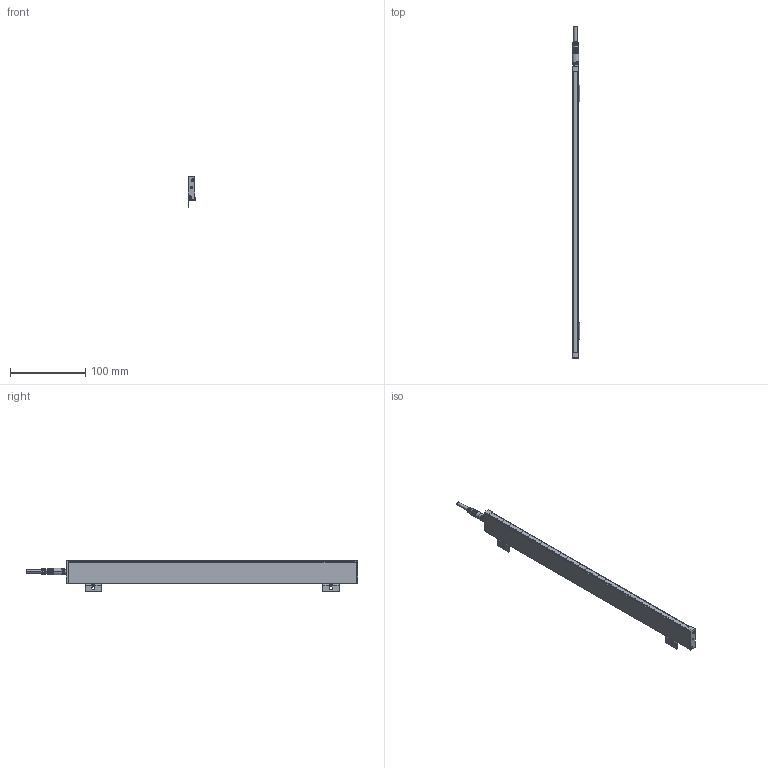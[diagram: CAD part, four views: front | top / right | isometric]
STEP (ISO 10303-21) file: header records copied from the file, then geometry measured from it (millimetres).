
FILE_DESCRIPTION (( 'STEP AP214' ), '1' );
FILE_NAME ('ILG-N-K2-0388mm.STEP', '2017-07-10T13:43:46', ( '' ), ( '' ), 'SwSTEP 2.0', 'SolidWorks 2016', '' );
FILE_SCHEMA (( 'AUTOMOTIVE_DESIGN' ));
Length unit declared in the file: millimetre
Products named in the file (1): ILG-N-K2-0388mm
Bounding box: 10.23 x 441.5 x 42.41 mm (x, y, z)
Surface area: 70948.2 mm2 (no closed solid volume)
Topology: 0 solids, 15 shells, 740 faces, 1919 edges, 1209 vertices
Faces by surface type: plane 313, cylinder 289, cone 90, bspline 32, torus 16
Entity records: 32845 total; most frequent: CARTESIAN_POINT 6754, ORIENTED_EDGE 3791, DIRECTION 3659, EDGE_CURVE 1903, AXIS2_PLACEMENT_3D 1362, VERTEX_POINT 1209, VECTOR 935, LINE 935
